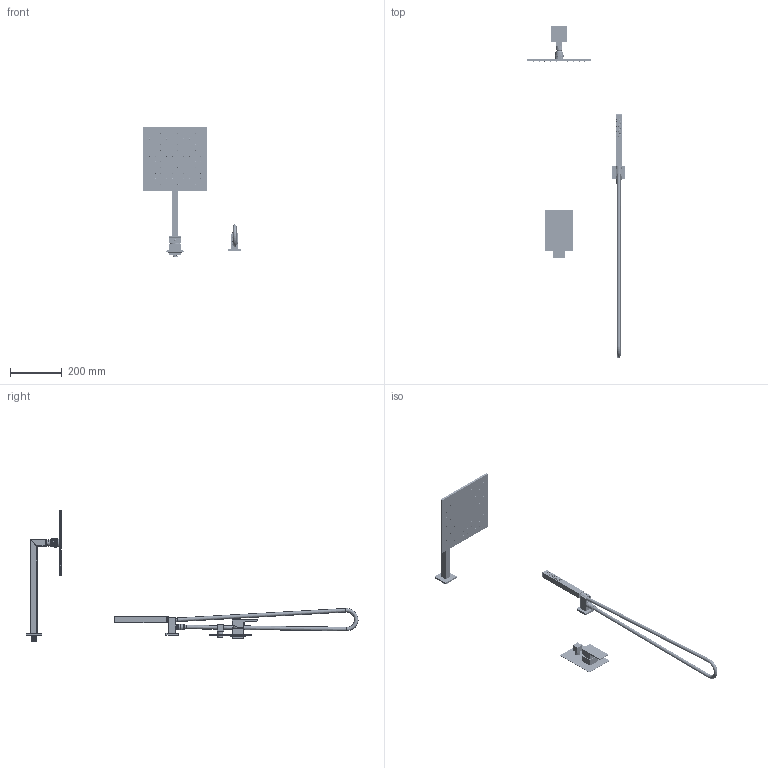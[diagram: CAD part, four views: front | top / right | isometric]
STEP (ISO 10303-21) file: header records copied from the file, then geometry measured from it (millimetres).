
FILE_DESCRIPTION(/* description */ (''),/* implementation_level */ '2;1');
FILE_NAME(/* name */ 'c:\worker\convert-fusion-jan-2019\tmp\job-1\551\output\files\2e3242e5-e61d-4c61-91dc-cc12169f300c\5842eb7f-ed58-48da-a089-d3d8aa087a4f.stp',/* time_stamp */ '2019-01-08T12:54:06+00:00',/* author */ (''),/* organization */ (''),/* preprocessor_version */ 'ST-DEVELOPER v17.2',/* originating_system */ 'Autodesk Translation Framework v7.6.0.251',/* authorisation */ '');
FILE_SCHEMA (('AUTOMOTIVE_DESIGN { 1 0 10303 214 3 1 1 }'));
Products named in the file (7): !SYS FR17; !8876 v2; !Y R/K v2; Wąż ok v1; !RA12 v2; !WG225 v1; !FR7135 v2
Assembly tree (6 placements, depth 2):
  !SYS FR17
    !8876 v2
    !Y R/K v2
    Wąż ok v1
    !RA12 v2
    !WG225 v1
    !FR7135 v2
Bounding box: 380.3 x 1282.43 x 505.5 mm (x, y, z)
Volume: 898751.8 mm3; surface area: 690976.8 mm2
Topology: 69 solids, 69 shells, 3749 faces, 10287 edges, 5423 vertices
Faces by surface type: cylinder 2345, plane 742, cone 273, torus 255, bspline 119, sphere 15
Full cylindrical faces by diameter (mm): 0.2 x1616, 0.7 x18, 0.925 x48, 1.3 x100, 2.4 x18, 3 x18, 3.3 x1, 3.5 x100, 4 x1, 4.2 x100, 5 x18, 6 x18, 6.5 x18, 7 x18, 9.684 x1, 11.5 x1, 13.5 x1, 14 x6, 16.938 x17, 19.05 x1, 19.1 x1, 19.124 x1, 19.791 x19, 20 x2, 20.095 x5, 24 x1, 24.043 x1, 24.6 x2, 26 x1, 26.7 x2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
Entity records: 140441 total; most frequent: CARTESIAN_POINT 41160, DIRECTION 23029, ORIENTED_EDGE 20514, EDGE_CURVE 10257, AXIS2_PLACEMENT_3D 9783, VERTEX_POINT 5423, EDGE_LOOP 4544, FACE_OUTER_BOUND 3749
